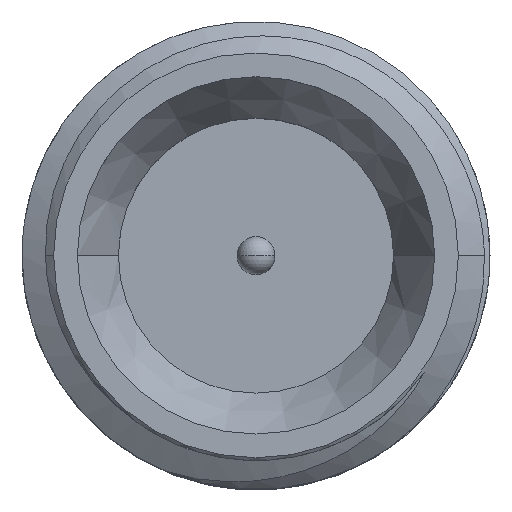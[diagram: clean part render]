
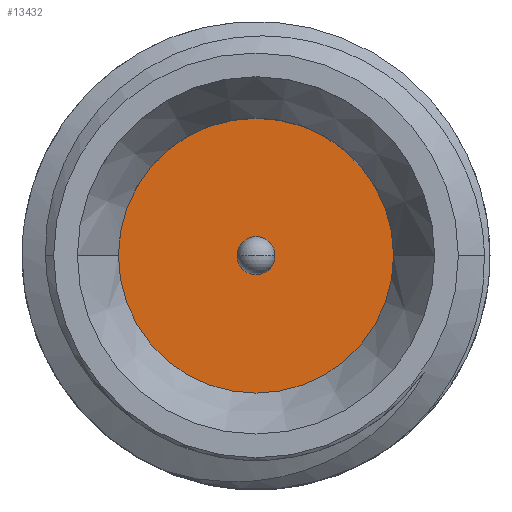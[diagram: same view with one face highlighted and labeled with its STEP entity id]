
A CAD part, top view. The second image highlights one B-rep face of the part: STEP entity #13432.
In plain terms, the highlighted planar face has unit normal (0, 0, 1).
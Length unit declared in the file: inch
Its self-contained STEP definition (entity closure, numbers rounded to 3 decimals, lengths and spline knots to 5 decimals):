
#312 = CARTESIAN_POINT ( 'NONE',  ( 0., 0., -0.083 ) ) ;
#315 = CARTESIAN_POINT ( 'NONE',  ( 0., 0., -0.083 ) ) ;
#420 = VERTEX_POINT ( 'NONE', #13508 ) ;
#669 = CARTESIAN_POINT ( 'NONE',  ( 0.006, 0., -0.083 ) ) ;
#1115 = AXIS2_PLACEMENT_3D ( 'NONE', #315, #5531, #11012 ) ;
#1841 = AXIS2_PLACEMENT_3D ( 'NONE', #9493, #12601, #10673 ) ;
#2938 = CIRCLE ( 'NONE', #1841, 0.006 ) ;
#3431 = EDGE_LOOP ( 'NONE', ( #5149, #3870 ) ) ;
#3805 = EDGE_CURVE ( 'NONE', #8311, #10454, #8893, .T. ) ;
#3853 = ORIENTED_EDGE ( 'NONE', *, *, #3805, .F. ) ;
#3870 = ORIENTED_EDGE ( 'NONE', *, *, #10048, .T. ) ;
#4200 = CARTESIAN_POINT ( 'NONE',  ( -0.006, 0., -0.083 ) ) ;
#4404 = CIRCLE ( 'NONE', #1115, 0.0435 ) ;
#4758 = VERTEX_POINT ( 'NONE', #5970 ) ;
#5149 = ORIENTED_EDGE ( 'NONE', *, *, #8122, .T. ) ;
#5531 = DIRECTION ( 'NONE',  ( 0., 0., 1. ) ) ;
#5553 = AXIS2_PLACEMENT_3D ( 'NONE', #312, #11770, #11836 ) ;
#5970 = CARTESIAN_POINT ( 'NONE',  ( 0.0435, 0., -0.083 ) ) ;
#6302 = CARTESIAN_POINT ( 'NONE',  ( 0., 0.0435, -0.083 ) ) ;
#6507 = DIRECTION ( 'NONE',  ( 0., 0., -1. ) ) ;
#7116 = AXIS2_PLACEMENT_3D ( 'NONE', #6302, #6507, #7350 ) ;
#7176 = ORIENTED_EDGE ( 'NONE', *, *, #13534, .F. ) ;
#7350 = DIRECTION ( 'NONE',  ( -1., 0., 0. ) ) ;
#8122 = EDGE_CURVE ( 'NONE', #4758, #420, #11526, .T. ) ;
#8260 = FACE_BOUND ( 'NONE', #12245, .T. ) ;
#8311 = VERTEX_POINT ( 'NONE', #669 ) ;
#8467 = FACE_OUTER_BOUND ( 'NONE', #3431, .T. ) ;
#8893 = CIRCLE ( 'NONE', #5553, 0.006 ) ;
#9493 = CARTESIAN_POINT ( 'NONE',  ( 0., 0., -0.083 ) ) ;
#10048 = EDGE_CURVE ( 'NONE', #420, #4758, #4404, .T. ) ;
#10454 = VERTEX_POINT ( 'NONE', #4200 ) ;
#10476 = PLANE ( 'NONE',  #7116 ) ;
#10545 = CARTESIAN_POINT ( 'NONE',  ( 0., 0., -0.083 ) ) ;
#10673 = DIRECTION ( 'NONE',  ( -1., 0., 0. ) ) ;
#11012 = DIRECTION ( 'NONE',  ( 1., 0., 0. ) ) ;
#11526 = CIRCLE ( 'NONE', #13309, 0.0435 ) ;
#11770 = DIRECTION ( 'NONE',  ( 0., 0., 1. ) ) ;
#11775 = DIRECTION ( 'NONE',  ( 1., 0., 0. ) ) ;
#11836 = DIRECTION ( 'NONE',  ( -1., 0., 0. ) ) ;
#12245 = EDGE_LOOP ( 'NONE', ( #3853, #7176 ) ) ;
#12601 = DIRECTION ( 'NONE',  ( 0., 0., 1. ) ) ;
#13309 = AXIS2_PLACEMENT_3D ( 'NONE', #10545, #13655, #11775 ) ;
#13432 = ADVANCED_FACE ( 'NONE', ( #8260, #8467 ), #10476, .F. ) ;
#13508 = CARTESIAN_POINT ( 'NONE',  ( -0.0435, 0., -0.083 ) ) ;
#13534 = EDGE_CURVE ( 'NONE', #10454, #8311, #2938, .T. ) ;
#13655 = DIRECTION ( 'NONE',  ( 0., 0., 1. ) ) ;
